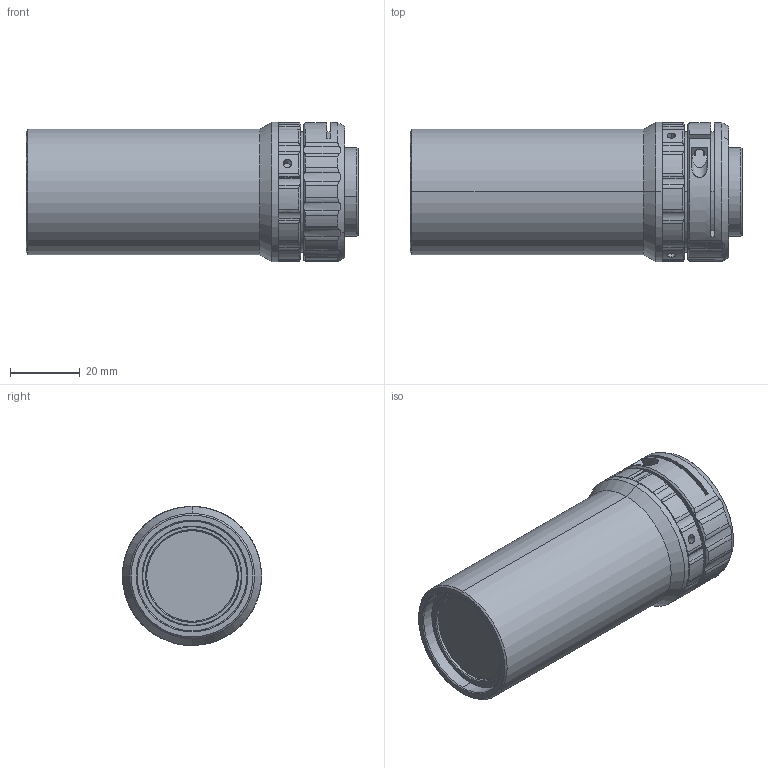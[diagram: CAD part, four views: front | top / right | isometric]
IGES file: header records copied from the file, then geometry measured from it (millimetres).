
Start section: SolidWorks IGES file using analytic representation for surfaces
Global section: file name: E:\liang\光学镜头\客户外形图\凌悠要的客户3D外形图\WWT121-05-190.IGS; native system: SolidWorks 2017; preprocessor: SolidWorks 2017; author: wenru; date: 220816.115549; units: millimetre
Bounding box: 95.46 x 40 x 40 mm (x, y, z)
Surface area: 14860.1 mm2 (no closed solid volume)
Topology: 0 solids, 0 shells, 198 faces, 2562 edges, 2560 vertices
Faces by surface type: revolution 155, bspline 43
